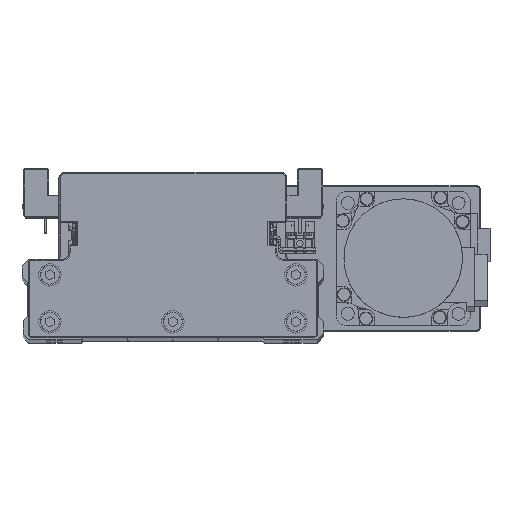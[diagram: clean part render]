
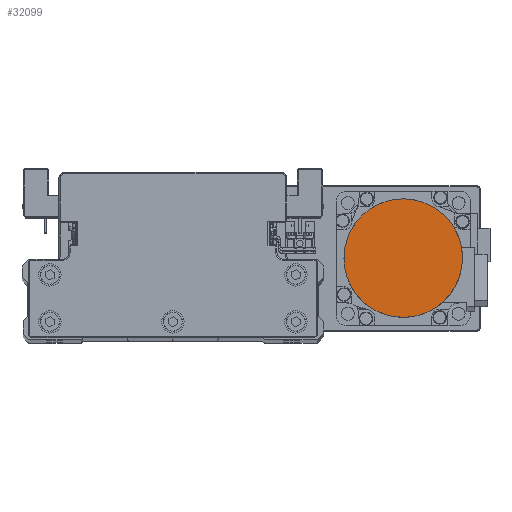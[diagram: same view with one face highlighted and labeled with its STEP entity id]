
A CAD part, top view. The second image highlights one B-rep face of the part: STEP entity #32099.
In plain terms, the highlighted planar face has unit normal (0, 0, 1) as drawn and (0, 0, -1) by its records, which use the part's own axes.
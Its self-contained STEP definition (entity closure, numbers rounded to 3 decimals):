
#490 = CARTESIAN_POINT ( 'NONE',  ( -25.652, -6.871, -109.7 ) ) ;
#683 = CARTESIAN_POINT ( 'NONE',  ( -1.734, -26.5, -109.7 ) ) ;
#900 = CARTESIAN_POINT ( 'NONE',  ( 25.147, -8.539, -109.7 ) ) ;
#1261 = CARTESIAN_POINT ( 'NONE',  ( 26.5, 1.734, -109.7 ) ) ;
#1458 = CARTESIAN_POINT ( 'NONE',  ( 6.871, 25.652, -109.7 ) ) ;
#1667 = CARTESIAN_POINT ( 'NONE',  ( -22.998, 13.28, -109.7 ) ) ;
#3585 = CARTESIAN_POINT ( 'NONE',  ( -26.5, 0., -109.7 ) ) ;
#3793 = CARTESIAN_POINT ( 'NONE',  ( -8.539, -25.147, -109.7 ) ) ;
#3984 = CARTESIAN_POINT ( 'NONE',  ( 21.07, -16.165, -109.7 ) ) ;
#4561 = CARTESIAN_POINT ( 'NONE',  ( 13.28, 22.998, -109.7 ) ) ;
#4763 = CARTESIAN_POINT ( 'NONE',  ( -17.512, 19.965, -109.7 ) ) ;
#6629 = DIRECTION ( 'NONE',  ( 1., 0., 0. ) ) ;
#6906 = CARTESIAN_POINT ( 'NONE',  ( -16.165, -21.07, -109.7 ) ) ;
#7012 = ORIENTED_EDGE ( 'NONE', *, *, #34324, .F. ) ;
#7112 = CARTESIAN_POINT ( 'NONE',  ( 16.165, -21.07, -109.7 ) ) ;
#7676 = CARTESIAN_POINT ( 'NONE',  ( 19.965, 17.512, -109.7 ) ) ;
#7882 = CARTESIAN_POINT ( 'NONE',  ( -11.744, 23.819, -109.7 ) ) ;
#9754 = PLANE ( 'NONE',  #24865 ) ;
#10004 = CARTESIAN_POINT ( 'NONE',  ( -21.07, -16.165, -109.7 ) ) ;
#10222 = CARTESIAN_POINT ( 'NONE',  ( 8.539, -25.147, -109.7 ) ) ;
#10428 = CARTESIAN_POINT ( 'NONE',  ( 26.5, 0., -109.7 ) ) ;
#10786 = CARTESIAN_POINT ( 'NONE',  ( 23.819, 11.744, -109.7 ) ) ;
#10985 = CARTESIAN_POINT ( 'NONE',  ( -3.469, 26.329, -109.7 ) ) ;
#11184 = CARTESIAN_POINT ( 'NONE',  ( -26.329, 3.469, -109.7 ) ) ;
#13114 = CARTESIAN_POINT ( 'NONE',  ( -25.147, -8.539, -109.7 ) ) ;
#13314 = CARTESIAN_POINT ( 'NONE',  ( 1.734, -26.5, -109.7 ) ) ;
#13529 = CARTESIAN_POINT ( 'NONE',  ( 25.652, -6.871, -109.7 ) ) ;
#13885 = CARTESIAN_POINT ( 'NONE',  ( 26.329, 3.469, -109.7 ) ) ;
#14095 = CARTESIAN_POINT ( 'NONE',  ( 3.469, 26.329, -109.7 ) ) ;
#14296 = CARTESIAN_POINT ( 'NONE',  ( -23.819, 11.744, -109.7 ) ) ;
#16220 = CARTESIAN_POINT ( 'NONE',  ( -26.5, -1.734, -109.7 ) ) ;
#16428 = CARTESIAN_POINT ( 'NONE',  ( -6.871, -25.652, -109.7 ) ) ;
#16624 = CARTESIAN_POINT ( 'NONE',  ( 22.998, -13.28, -109.7 ) ) ;
#17192 = CARTESIAN_POINT ( 'NONE',  ( 11.744, 23.819, -109.7 ) ) ;
#17405 = CARTESIAN_POINT ( 'NONE',  ( -19.965, 17.512, -109.7 ) ) ;
#19538 = CARTESIAN_POINT ( 'NONE',  ( -13.28, -22.998, -109.7 ) ) ;
#19744 = CARTESIAN_POINT ( 'NONE',  ( 17.512, -19.965, -109.7 ) ) ;
#20274 = EDGE_LOOP ( 'NONE', ( #36141, #7012 ) ) ;
#20310 = CARTESIAN_POINT ( 'NONE',  ( 17.512, 19.965, -109.7 ) ) ;
#20375 = B_SPLINE_CURVE_WITH_KNOTS ( 'NONE', 3,
 ( #29630, #1261, #13885, #26516, #39146, #10786, #23420, #36036, #7676, #20310, #32937, #4561, #17192, #29826, #1458, #14095, #26736, #39357, #10985, #23623, #36245, #7882, #20502, #33132, #4763, #17405, #30044, #1667, #14296, #26927, #39559, #11184, #23818, #36442 ),
 .UNSPECIFIED., .F., .F.,
 ( 4, 2, 2, 2, 2, 2, 2, 2, 2, 2, 2, 2, 2, 2, 2, 2, 4 ),
 ( 0., 0.062, 0.125, 0.187, 0.25, 0.312, 0.375, 0.437, 0.5, 0.562, 0.625, 0.687, 0.75, 0.813, 0.875, 0.938, 1. ),
 .UNSPECIFIED. ) ;
#20502 = CARTESIAN_POINT ( 'NONE',  ( -13.28, 22.998, -109.7 ) ) ;
#22378 = CARTESIAN_POINT ( 'NONE',  ( 0., 0., -109.7 ) ) ;
#22632 = CARTESIAN_POINT ( 'NONE',  ( -19.965, -17.512, -109.7 ) ) ;
#22847 = CARTESIAN_POINT ( 'NONE',  ( 11.744, -23.819, -109.7 ) ) ;
#23420 = CARTESIAN_POINT ( 'NONE',  ( 22.998, 13.28, -109.7 ) ) ;
#23623 = CARTESIAN_POINT ( 'NONE',  ( -6.871, 25.652, -109.7 ) ) ;
#23818 = CARTESIAN_POINT ( 'NONE',  ( -26.5, 1.734, -109.7 ) ) ;
#24369 = B_SPLINE_CURVE_WITH_KNOTS ( 'NONE', 3,
 ( #3585, #16220, #28854, #490, #13114, #25755, #38376, #10004, #22632, #35270, #6906, #19538, #32172, #3793, #16428, #29053, #683, #13314, #25947, #38588, #10222, #22847, #35475, #7112, #19744, #32367, #3984, #16624, #29257, #900, #13529, #26164, #38790, #10428 ),
 .UNSPECIFIED., .F., .F.,
 ( 4, 2, 2, 2, 2, 2, 2, 2, 2, 2, 2, 2, 2, 2, 2, 2, 4 ),
 ( 0., 0.063, 0.125, 0.188, 0.25, 0.312, 0.375, 0.437, 0.5, 0.562, 0.625, 0.687, 0.75, 0.813, 0.875, 0.938, 1. ),
 .UNSPECIFIED. ) ;
#24865 = AXIS2_PLACEMENT_3D ( 'NONE', #22378, #35003, #6629 ) ;
#25755 = CARTESIAN_POINT ( 'NONE',  ( -23.819, -11.744, -109.7 ) ) ;
#25947 = CARTESIAN_POINT ( 'NONE',  ( 3.469, -26.329, -109.7 ) ) ;
#26164 = CARTESIAN_POINT ( 'NONE',  ( 26.329, -3.469, -109.7 ) ) ;
#26516 = CARTESIAN_POINT ( 'NONE',  ( 25.652, 6.871, -109.7 ) ) ;
#26736 = CARTESIAN_POINT ( 'NONE',  ( 1.734, 26.5, -109.7 ) ) ;
#26927 = CARTESIAN_POINT ( 'NONE',  ( -25.147, 8.539, -109.7 ) ) ;
#27209 = CARTESIAN_POINT ( 'NONE',  ( -26.5, 0., -109.7 ) ) ;
#28854 = CARTESIAN_POINT ( 'NONE',  ( -26.329, -3.469, -109.7 ) ) ;
#29053 = CARTESIAN_POINT ( 'NONE',  ( -3.469, -26.329, -109.7 ) ) ;
#29257 = CARTESIAN_POINT ( 'NONE',  ( 23.819, -11.744, -109.7 ) ) ;
#29630 = CARTESIAN_POINT ( 'NONE',  ( 26.5, 0., -109.7 ) ) ;
#29826 = CARTESIAN_POINT ( 'NONE',  ( 8.539, 25.147, -109.7 ) ) ;
#30044 = CARTESIAN_POINT ( 'NONE',  ( -21.07, 16.165, -109.7 ) ) ;
#31526 = VERTEX_POINT ( 'NONE', #27209 ) ;
#32099 = ADVANCED_FACE ( 'NONE', ( #38120 ), #9754, .F. ) ;
#32172 = CARTESIAN_POINT ( 'NONE',  ( -11.744, -23.819, -109.7 ) ) ;
#32367 = CARTESIAN_POINT ( 'NONE',  ( 19.965, -17.512, -109.7 ) ) ;
#32937 = CARTESIAN_POINT ( 'NONE',  ( 16.165, 21.07, -109.7 ) ) ;
#33132 = CARTESIAN_POINT ( 'NONE',  ( -16.165, 21.07, -109.7 ) ) ;
#34324 = EDGE_CURVE ( 'NONE', #31526, #38778, #24369, .T. ) ;
#34680 = CARTESIAN_POINT ( 'NONE',  ( 26.5, 0., -109.7 ) ) ;
#35003 = DIRECTION ( 'NONE',  ( 0., 0., 1. ) ) ;
#35270 = CARTESIAN_POINT ( 'NONE',  ( -17.512, -19.965, -109.7 ) ) ;
#35475 = CARTESIAN_POINT ( 'NONE',  ( 13.28, -22.998, -109.7 ) ) ;
#35817 = EDGE_CURVE ( 'NONE', #38778, #31526, #20375, .T. ) ;
#36036 = CARTESIAN_POINT ( 'NONE',  ( 21.07, 16.165, -109.7 ) ) ;
#36141 = ORIENTED_EDGE ( 'NONE', *, *, #35817, .F. ) ;
#36245 = CARTESIAN_POINT ( 'NONE',  ( -8.539, 25.147, -109.7 ) ) ;
#36442 = CARTESIAN_POINT ( 'NONE',  ( -26.5, 0., -109.7 ) ) ;
#38120 = FACE_OUTER_BOUND ( 'NONE', #20274, .T. ) ;
#38376 = CARTESIAN_POINT ( 'NONE',  ( -22.998, -13.28, -109.7 ) ) ;
#38588 = CARTESIAN_POINT ( 'NONE',  ( 6.871, -25.652, -109.7 ) ) ;
#38778 = VERTEX_POINT ( 'NONE', #34680 ) ;
#38790 = CARTESIAN_POINT ( 'NONE',  ( 26.5, -1.734, -109.7 ) ) ;
#39146 = CARTESIAN_POINT ( 'NONE',  ( 25.147, 8.539, -109.7 ) ) ;
#39357 = CARTESIAN_POINT ( 'NONE',  ( -1.734, 26.5, -109.7 ) ) ;
#39559 = CARTESIAN_POINT ( 'NONE',  ( -25.652, 6.871, -109.7 ) ) ;
